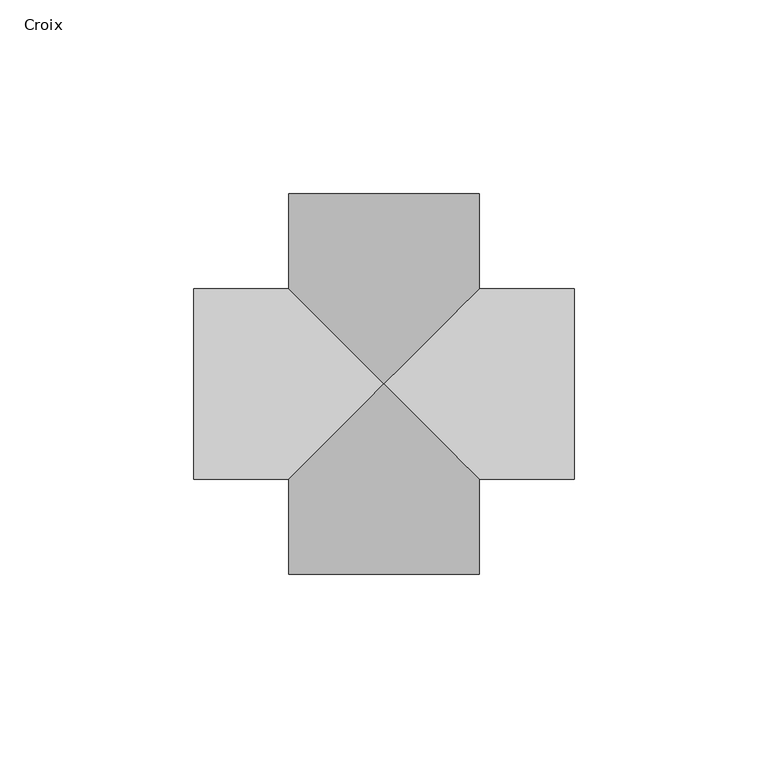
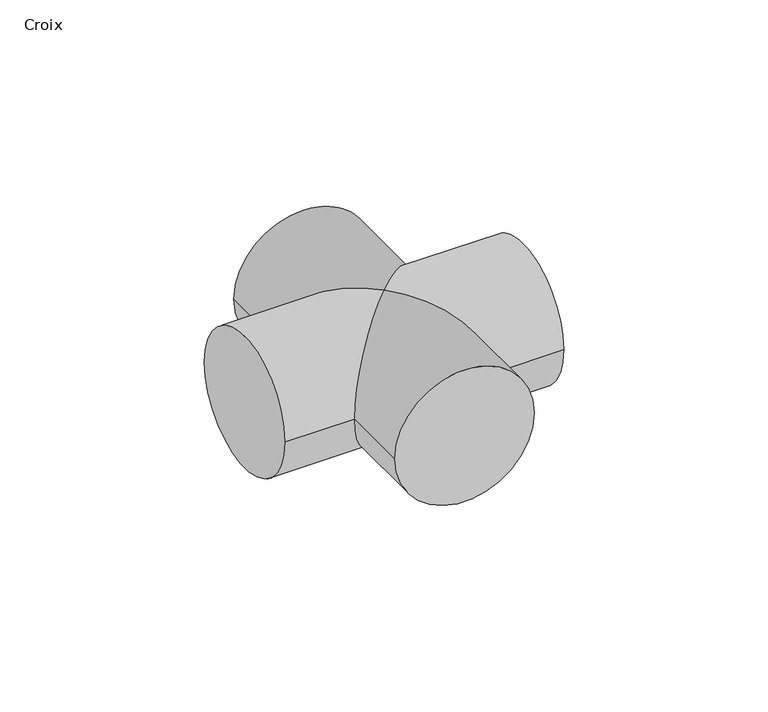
"""IFC4 building model written with IfcOpenShell, lengths in millimetres: pipe fitting geometry, 01051068 : Croix."""

from ifc_helpers import new_model, si_unit, frame, origin, place, context, project, spatial, circle_curve, ellipse_curve, source, transform, mapped, element, save
from ifc_brep_helpers import plane_surface, cylinder_surface, advanced_brep


def croix_bad76337(model_context):
    return source(origin(), model_context, "Body", "AdvancedBrep", [
        advanced_brep(
        [(-24.5, 49.0, 0.0), (24.5, 49.0, 0.0), (-24.5, -49.0, 0.0), (24.5, -49.0, 0.0), (-24.5, 24.5, 0.0), (0.0, 0.0, 24.5), (24.5, 24.5, 0.0), (24.5, -24.5, 0.0), (-24.5, -24.5, 0.0), (0.0, 0.0, -24.5), (49.0, 24.5, 0.0), (49.0, -24.5, 0.0), (-49.0, 24.5, 0.0), (-49.0, -24.5, 0.0)],
        [
            (0, 1, circle_curve(frame((0.0, 49.0, 0.0), z_axis=(0.0, 1.0, 0.0), x_axis=(1.0, 0.0, 0.0)), 24.5)),
            (1, 0, circle_curve(frame((0.0, 49.0, 0.0), z_axis=(0.0, 1.0, 0.0), x_axis=(1.0, 0.0, 0.0)), 24.5)),
            (2, 3, circle_curve(frame((0.0, -49.0, 0.0), z_axis=(0.0, -1.0, 0.0), x_axis=(1.0, 0.0, 0.0)), 24.5)),
            (3, 2, circle_curve(frame((0.0, -49.0, 0.0), z_axis=(0.0, -1.0, 0.0), x_axis=(1.0, 0.0, 0.0)), 24.5)),
            (0, 4),
            (4, 5, ellipse_curve(frame((0.0, 0.0, 0.0), z_axis=(0.7071067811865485, 0.7071067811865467, 0.0), x_axis=(-0.7071067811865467, 0.7071067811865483, 0.0)), 34.6482323, 24.5)),
            (5, 6, ellipse_curve(frame((0.0, 0.0, 0.0), z_axis=(-0.7071067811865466, 0.7071067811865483, 0.0), x_axis=(0.7071067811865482, 0.7071067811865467, 0.0)), 34.6482323, 24.5)),
            (6, 1),
            (3, 7),
            (7, 5, ellipse_curve(frame((0.0, 0.0, 0.0), z_axis=(-0.7071067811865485, -0.7071067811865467, 0.0), x_axis=(-0.7071067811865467, 0.7071067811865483, 0.0)), 34.6482323, 24.5)),
            (5, 8, ellipse_curve(frame((0.0, 0.0, 0.0), z_axis=(0.7071067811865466, -0.7071067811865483, 0.0), x_axis=(0.7071067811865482, 0.7071067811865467, 0.0)), 34.6482323, 24.5)),
            (8, 2),
            (6, 9, ellipse_curve(frame((0.0, 0.0, 0.0), z_axis=(-0.7071067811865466, 0.7071067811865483, 0.0), x_axis=(0.7071067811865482, 0.7071067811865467, 0.0)), 34.6482323, 24.5)),
            (9, 4, ellipse_curve(frame((0.0, 0.0, 0.0), z_axis=(0.7071067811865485, 0.7071067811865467, 0.0), x_axis=(-0.7071067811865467, 0.7071067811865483, 0.0)), 34.6482323, 24.5)),
            (8, 9, ellipse_curve(frame((0.0, 0.0, 0.0), z_axis=(0.7071067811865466, -0.7071067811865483, 0.0), x_axis=(0.7071067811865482, 0.7071067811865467, 0.0)), 34.6482323, 24.5)),
            (9, 7, ellipse_curve(frame((0.0, 0.0, 0.0), z_axis=(-0.7071067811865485, -0.7071067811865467, 0.0), x_axis=(-0.7071067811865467, 0.7071067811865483, 0.0)), 34.6482323, 24.5)),
            (10, 11, circle_curve(frame((49.0, 0.0, 0.0), z_axis=(1.0, 0.0, 0.0), x_axis=(0.0, -1.0, 0.0)), 24.5)),
            (11, 10, circle_curve(frame((49.0, 0.0, 0.0), z_axis=(1.0, 0.0, 0.0), x_axis=(0.0, -1.0, 0.0)), 24.5)),
            (12, 13, circle_curve(frame((-49.0, 0.0, 0.0), z_axis=(-1.0, 0.0, 0.0), x_axis=(0.0, -1.0, 0.0)), 24.5)),
            (13, 12, circle_curve(frame((-49.0, 0.0, 0.0), z_axis=(-1.0, 0.0, 0.0), x_axis=(0.0, -1.0, 0.0)), 24.5)),
            (10, 6),
            (7, 11),
            (13, 8),
            (4, 12),
        ],
        [
            plane_surface(frame((0.0, 49.0, 0.0), z_axis=(0.0, 1.0, 0.0), x_axis=(0.0, 0.0, 1.0))),
            plane_surface(frame((0.0, -49.0, 0.0), z_axis=(0.0, -1.0, 0.0), x_axis=(0.0, 0.0, 1.0))),
            cylinder_surface(frame((0.0, 49.0, 0.0), z_axis=(0.0, 1.0, 0.0), x_axis=(1.0, 0.0, 0.0)), 24.5),
            plane_surface(frame((49.0, 0.0, 0.0), z_axis=(1.0, 0.0, 0.0), x_axis=(0.0, 0.0, 1.0))),
            plane_surface(frame((-49.0, 0.0, 0.0), z_axis=(-1.0, 0.0, 0.0), x_axis=(0.0, 0.0, 1.0))),
            cylinder_surface(frame((49.0, 0.0, 0.0), z_axis=(1.0, 0.0, 0.0), x_axis=(0.0, -1.0, 0.0)), 24.5),
        ],
        [
            (0, [[1, 2]]),
            (1, [[3, 4]]),
            (2, [[-1, 5, 6, 7, 8]]),
            (2, [[-4, 9, 10, 11, 12]]),
            (2, [[-2, -8, 13, 14, -5]]),
            (2, [[-3, -12, 15, 16, -9]]),
            (3, [[17, 18]]),
            (4, [[19, 20]]),
            (5, [[-17, 21, -7, -10, 22]]),
            (5, [[-20, 23, -11, -6, 24]]),
            (5, [[-18, -22, -16, -13, -21]]),
            (5, [[-19, -24, -14, -15, -23]]),
        ],
    ),
    ])


if __name__ == "__main__":
    model = new_model("IFC4")
    model_context = context("Model", 3, world=origin())
    ifc_project = project(units=[si_unit("LENGTHUNIT", "METRE", prefix="MILLI")], contexts=[model_context])
    site = spatial("IfcSite", under=ifc_project)
    building = spatial("IfcBuilding", under=site)
    placement = place(None, origin())
    croix_shape = croix_bad76337(model_context)
    element("IfcPipeFitting", 1, ObjectType="01051068 : Croix", at=placement, inside=building, context=model_context, shape_type="MappedRepresentation", body=[
        mapped(croix_shape, transform((0.0, 0.0, 0.0), x_axis=(1.0, 0.0, 0.0), y_axis=(0.0, 1.0, 0.0), z_axis=(0.0, 0.0, 1.0))),
    ])
    save(model, "model.ifc")
